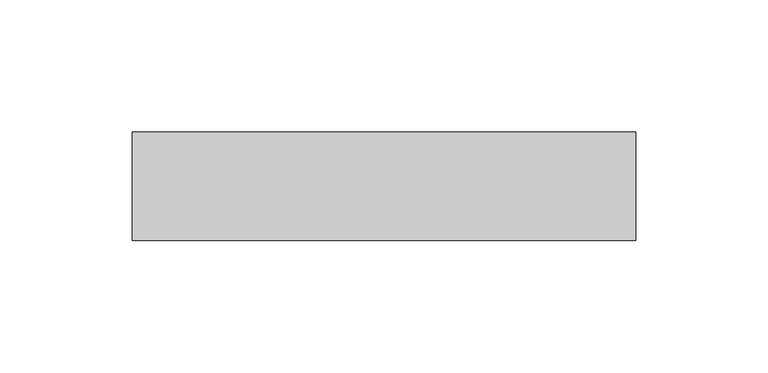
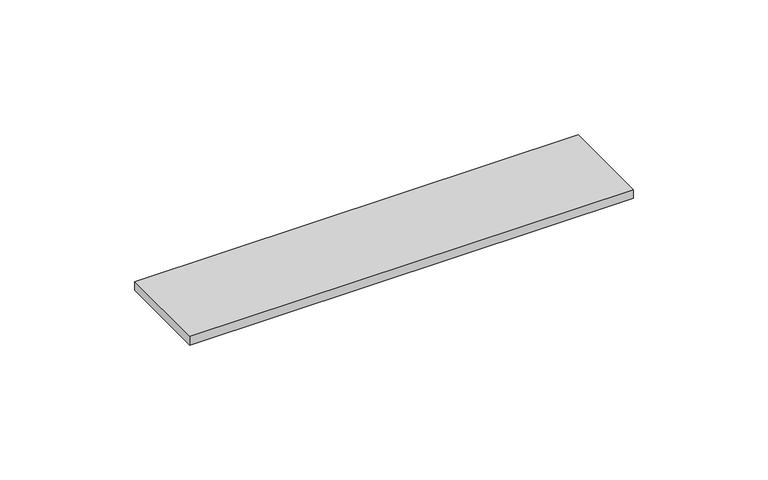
"""IFC4 building model written with IfcOpenShell, lengths in millimetres: proxy geometry, 4182A_Accessory-Basorfix : Basorfix 4182A GC70."""

from ifc_helpers import new_model, si_unit, origin, origin_with_axes, place, context, project, spatial, polyline, outline, extrude, source, transform, mapped, element, save


def generic_models_8d0fbc69(model_context):
    return source(origin(), model_context, "Body", "SweptSolid", [
        extrude(outline(polyline([(95.0, -20.4842733), (-95.0, -20.4842733), (-95.0, 20.4842733), (95.0, 20.4842733), (95.0, -20.4842733)])), origin_with_axes(), (0.0, 0.0, 1.0), 4.0),
    ])


if __name__ == "__main__":
    model = new_model("IFC4")
    model_context = context("Model", 3, world=origin())
    ifc_project = project(units=[si_unit("LENGTHUNIT", "METRE", prefix="MILLI")], contexts=[model_context])
    site = spatial("IfcSite", under=ifc_project)
    building = spatial("IfcBuilding", under=site)
    placement = place(None, origin())
    generic_models_shape = generic_models_8d0fbc69(model_context)
    element("IfcBuildingElementProxy", 1, Name="4182A_Accessory-Basorfix : Basorfix 4182A GC70", ObjectType="4182A_Accessory-Basorfix : Basorfix 4182A GC70", at=placement, inside=building, context=model_context, shape_type="MappedRepresentation", body=[
        mapped(generic_models_shape, transform((0.0, 0.0, 0.0), x_axis=(1.0, 0.0, 0.0), y_axis=(0.0, 1.0, 0.0), z_axis=(0.0, 0.0, 1.0))),
    ])
    save(model, "model.ifc")
